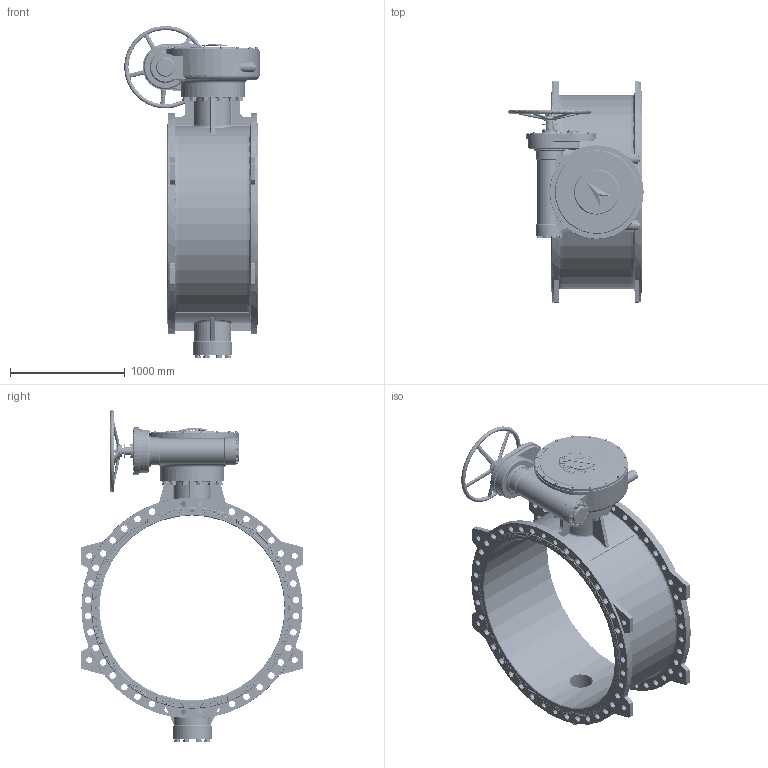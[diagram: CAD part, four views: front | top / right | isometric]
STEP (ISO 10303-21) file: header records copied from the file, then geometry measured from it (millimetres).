
FILE_DESCRIPTION (( 'STEP AP203' ), '1' );
FILE_NAME ('1600-16.STEP', '2014-11-06T06:50:53', ( '微软用户' ), ( '微软中国' ), 'SwSTEP 2.0', 'SolidWorks 2012', '' );
FILE_SCHEMA (( 'CONFIG_CONTROL_DESIGN' ));
Length unit declared in the file: millimetre
Products named in the file (38): 1600-16; GB-T93 ｵｯｻﾉｵ貶ｦ-304_ｵｯｻﾉｵ貶ｦ36; GB-T95 平垫圈-304_平垫圈33; GB-T5783 六角头螺栓M36-304_六角头螺栓M36X130; GB-T95 平垫圈-304_平垫圈30; GB-T93 ｵｯｻﾉｵ貶ｦ-304_ｵｯｻﾉｵ貶ｦ30; GB-T5783 六角头螺栓M30-304_六角头螺栓M30X90; 綴傷裔; 8#F48; GB-T5783 六角头螺栓M10-304_六角头螺栓M10X20; GB-T5783 六角头螺栓M8-304_六角头螺栓M8X25; -09 粣創傷裔; GB-T95 平垫圈-304_平垫圈10; GB-T93 ｵｯｻﾉｵ貶ｦ-304_ｵｯｻﾉｵ貶ｦ10; GB-T5783 六角头螺栓M10-304_六角头螺栓M10X35; GB-T5783 六角头螺栓M12-304_六角头螺栓M12X45; GB-T93 ｵｯｻﾉｵ貶ｦ-304_ｵｯｻﾉｵ貶ｦ12; GB-T95 平垫圈-304_平垫圈12; GB-T95 平垫圈-304_平垫圈16; GB-T93 ｵｯｻﾉｵ貶ｦ-304_ｵｯｻﾉｵ貶ｦ16; GB-T5783 六角头螺栓M16-304_六角头螺栓M16X55; GB-T5783 六角头螺栓M8-304_六角头螺栓M8X20; GB-T93 ｵｯｻﾉｵ貶ｦ-304_ｵｯｻﾉｵ貶ｦ8; GB-T95 平垫圈-304_平垫圈8; -10 垫圈; -01 忒謫; ﾁ羮2^8#F48; -02 萇雄蟀諉釱; -03 癹弇蹟邡裔; -02 硌尨啣; -04 埴翐眊裔; -05 喘謫眊裔躇猾菜; -07 埴翐喘謫眊极; -05 綴傷裔; -07躇猾菜; -01 恘謫眊裔; F48眊极; 概极
Assembly tree (249 placements, depth 3):
  1600-16
    概极
    8#F48
      F48眊极
      -01 恘謫眊裔
      -07躇猾菜  x2
      -05 綴傷裔
      -07 埴翐喘謫眊极
      -05 喘謫眊裔躇猾菜
      -04 埴翐眊裔
      -02 硌尨啣
      -03 癹弇蹟邡裔  x2
      -02 萇雄蟀諉釱
      ﾁ羮2^8#F48
      -01 忒謫
      -10 垫圈
      GB-T95 平垫圈-304_平垫圈8  x12
      GB-T93 ｵｯｻﾉｵ貶ｦ-304_ｵｯｻﾉｵ貶ｦ8  x12
      GB-T5783 六角头螺栓M8-304_六角头螺栓M8X20  x8
      GB-T5783 六角头螺栓M16-304_六角头螺栓M16X55  x12
      GB-T93 ｵｯｻﾉｵ貶ｦ-304_ｵｯｻﾉｵ貶ｦ16  x12
      GB-T95 平垫圈-304_平垫圈16  x12
      GB-T95 平垫圈-304_平垫圈12  x16
      GB-T93 ｵｯｻﾉｵ貶ｦ-304_ｵｯｻﾉｵ貶ｦ12  x16
      GB-T5783 六角头螺栓M12-304_六角头螺栓M12X45  x16
      GB-T5783 六角头螺栓M10-304_六角头螺栓M10X35  x17
      GB-T93 ｵｯｻﾉｵ貶ｦ-304_ｵｯｻﾉｵ貶ｦ10  x19
      GB-T95 平垫圈-304_平垫圈10  x12
      -09 粣創傷裔
      GB-T5783 六角头螺栓M8-304_六角头螺栓M8X25  x4
      GB-T5783 六角头螺栓M10-304_六角头螺栓M10X20  x2
    綴傷裔
    GB-T5783 六角头螺栓M30-304_六角头螺栓M30X90  x8
    GB-T93 ｵｯｻﾉｵ貶ｦ-304_ｵｯｻﾉｵ貶ｦ30  x8
    GB-T95 平垫圈-304_平垫圈30  x8
    GB-T5783 六角头螺栓M36-304_六角头螺栓M36X130  x12
    GB-T95 平垫圈-304_平垫圈33  x12
    GB-T93 ｵｯｻﾉｵ貶ｦ-304_ｵｯｻﾉｵ貶ｦ36  x12
Bounding box: 1181.66 x 1940 x 2898.57 mm (x, y, z)
Volume: 351235775.1 mm3; surface area: 21985832.6 mm2
Topology: 248 solids, 248 shells, 4388 faces, 10707 edges, 6911 vertices
Faces by surface type: cylinder 2087, plane 1705, cone 278, bspline 182, torus 136
Entity records: 107770 total; most frequent: CARTESIAN_POINT 36988, DIRECTION 13326, ORIENTED_EDGE 12278, EDGE_CURVE 6139, AXIS2_PLACEMENT_3D 5345, VERTEX_POINT 3981, EDGE_LOOP 3082, CIRCLE 2853
